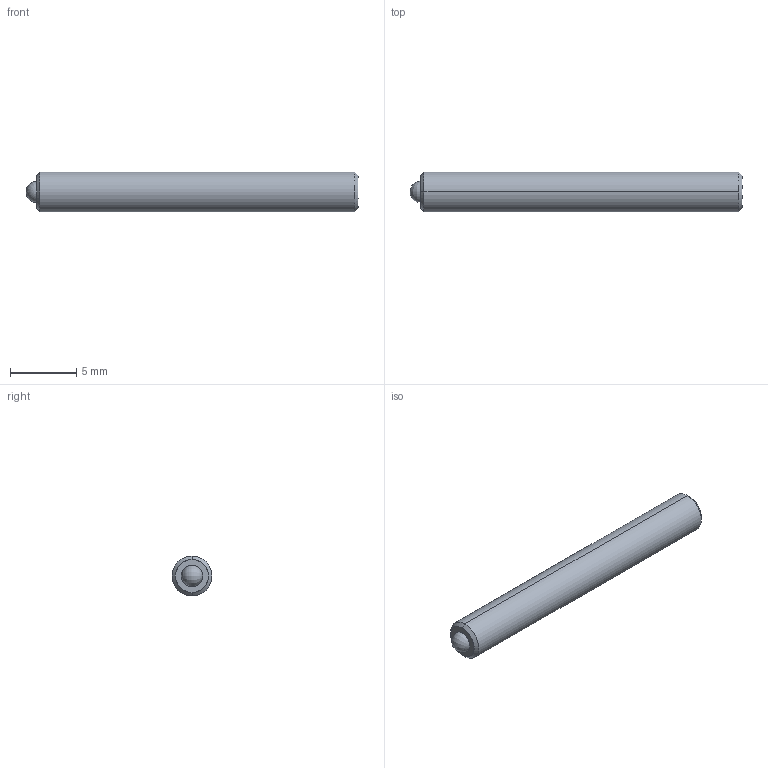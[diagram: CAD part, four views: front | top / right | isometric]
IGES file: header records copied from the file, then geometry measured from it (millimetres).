
Start section: SolidWorks IGES file using analytic representation for surfaces
Global section: file name: C:\Users\workpc\Desktop\KMA Solidworks\TS3-25 Series\TS3-25-25.IGS; native system: SolidWorks 2013; preprocessor: SolidWorks 2013; author: workpc; date: 130213.111347; units: millimetre
Bounding box: 25 x 3 x 3 mm (x, y, z)
Surface area: 261.7 mm2 (no closed solid volume)
Topology: 0 solids, 0 shells, 20 faces, 172 edges, 168 vertices
Faces by surface type: revolution 10, bspline 10
